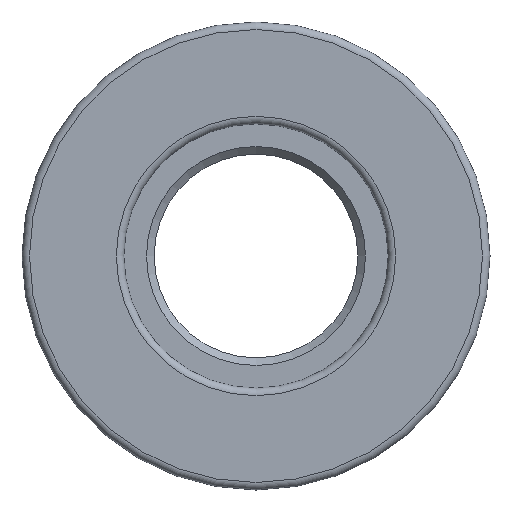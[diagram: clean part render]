
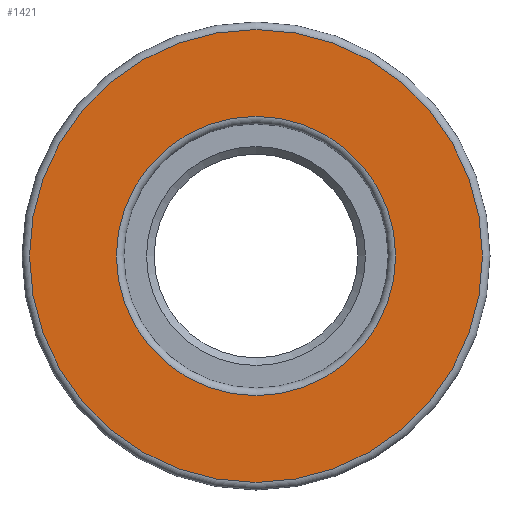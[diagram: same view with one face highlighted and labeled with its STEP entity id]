
A CAD part, front view. The second image highlights one B-rep face of the part: STEP entity #1421.
In plain terms, the highlighted planar face has unit normal (0, -1, 0).
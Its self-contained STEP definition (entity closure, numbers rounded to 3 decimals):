
#116=PLANE('',#1543);
#193=FACE_BOUND('',#382,.T.);
#267=FACE_OUTER_BOUND('',#381,.T.);
#381=EDGE_LOOP('',(#1054));
#382=EDGE_LOOP('',(#1055));
#556=CIRCLE('',#1542,30.);
#557=CIRCLE('',#1544,18.5);
#741=VERTEX_POINT('',#2486);
#742=VERTEX_POINT('',#2489);
#863=EDGE_CURVE('',#741,#741,#556,.T.);
#864=EDGE_CURVE('',#742,#742,#557,.T.);
#1054=ORIENTED_EDGE('',*,*,#863,.F.);
#1055=ORIENTED_EDGE('',*,*,#864,.F.);
#1421=ADVANCED_FACE('',(#267,#193),#116,.T.);
#1542=AXIS2_PLACEMENT_3D('',#2487,#1870,#1871);
#1543=AXIS2_PLACEMENT_3D('',#2488,#1872,#1873);
#1544=AXIS2_PLACEMENT_3D('',#2490,#1874,#1875);
#1870=DIRECTION('center_axis',(0.,1.,0.));
#1871=DIRECTION('ref_axis',(-1.,0.,0.));
#1872=DIRECTION('center_axis',(0.,-1.,0.));
#1873=DIRECTION('ref_axis',(0.,0.,-1.));
#1874=DIRECTION('center_axis',(0.,-1.,0.));
#1875=DIRECTION('ref_axis',(-1.,0.,0.));
#2486=CARTESIAN_POINT('',(30.,-9.,0.));
#2487=CARTESIAN_POINT('Origin',(0.,-9.,
0.));
#2488=CARTESIAN_POINT('Origin',(17.5,-9.,0.));
#2489=CARTESIAN_POINT('',(18.5,-9.,0.));
#2490=CARTESIAN_POINT('Origin',(0.,-9.,
0.));
